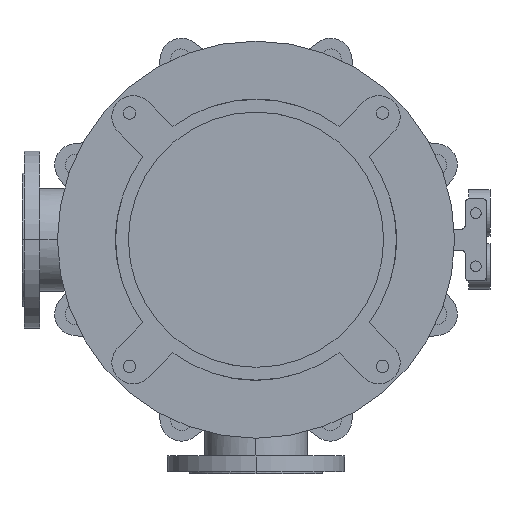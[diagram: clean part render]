
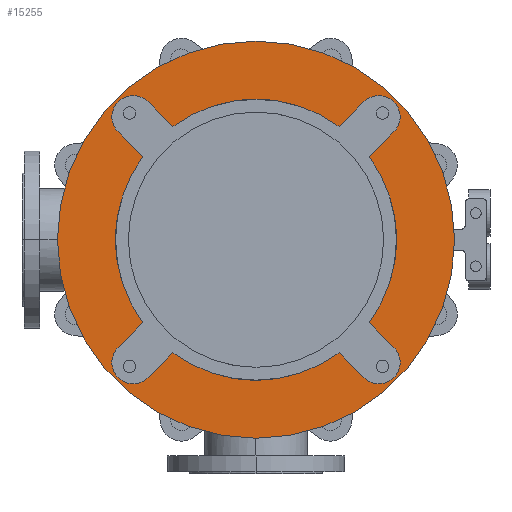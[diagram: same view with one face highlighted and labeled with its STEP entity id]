
A CAD part, front view. The second image highlights one B-rep face of the part: STEP entity #15255.
In plain terms, the highlighted planar face has unit normal (0, -1, 0).
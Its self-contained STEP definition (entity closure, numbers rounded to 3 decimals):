
#4256=CARTESIAN_POINT('',(0.,-25.,0.));
#4257=DIRECTION('',(0.,1.,0.));
#4258=DIRECTION('',(0.592,0.,-0.806));
#4259=AXIS2_PLACEMENT_3D('',#4256,#4257,#4258);
#4274=CARTESIAN_POINT('',(0.,-25.,0.));
#4275=DIRECTION('',(0.,1.,0.));
#4276=DIRECTION('',(0.806,0.,0.592));
#4277=AXIS2_PLACEMENT_3D('',#4274,#4275,#4276);
#4301=CARTESIAN_POINT('',(0.,-25.,0.));
#4302=DIRECTION('',(0.,1.,0.));
#4303=DIRECTION('',(-0.806,0.,-0.592));
#4304=AXIS2_PLACEMENT_3D('',#4301,#4302,#4303);
#4310=CARTESIAN_POINT('',(0.,-25.,0.));
#4311=DIRECTION('',(0.,1.,0.));
#4312=DIRECTION('',(-0.592,0.,0.806));
#4313=AXIS2_PLACEMENT_3D('',#4310,#4311,#4312);
#4488=CARTESIAN_POINT('',(0.,-25.,0.));
#4489=DIRECTION('',(0.,-1.,0.));
#4490=DIRECTION('',(-1.,0.,0.));
#4491=AXIS2_PLACEMENT_3D('',#4488,#4489,#4490);
#4493=CARTESIAN_POINT('',(0.,-25.,0.));
#4494=DIRECTION('',(0.,1.,0.));
#4495=DIRECTION('',(-1.,0.,0.));
#4496=AXIS2_PLACEMENT_3D('',#4493,#4494,#4495);
#4498=CARTESIAN_POINT('',(-173.241,-25.,173.241));
#4499=DIRECTION('',(0.,-1.,0.));
#4500=DIRECTION('',(0.707,0.,0.707));
#4501=AXIS2_PLACEMENT_3D('',#4498,#4499,#4500);
#4503=DIRECTION('',(0.707,0.,-0.707));
#4504=VECTOR('',#4503,49.286);
#4505=CARTESIAN_POINT('',(-194.454,-25.,152.028));
#4506=LINE('',#4505,#4504);
#4507=DIRECTION('',(-0.707,0.,-0.707));
#4508=VECTOR('',#4507,49.286);
#4509=CARTESIAN_POINT('',(-159.604,-25.,-117.178));
#4510=LINE('',#4509,#4508);
#4511=CARTESIAN_POINT('',(-173.241,-25.,-173.241));
#4512=DIRECTION('',(0.,-1.,0.));
#4513=DIRECTION('',(-0.707,0.,0.707));
#4514=AXIS2_PLACEMENT_3D('',#4511,#4512,#4513);
#4516=DIRECTION('',(0.707,0.,0.707));
#4517=VECTOR('',#4516,49.286);
#4518=CARTESIAN_POINT('',(-152.028,-25.,-194.454));
#4519=LINE('',#4518,#4517);
#4520=DIRECTION('',(0.707,0.,-0.707));
#4521=VECTOR('',#4520,49.286);
#4522=CARTESIAN_POINT('',(117.178,-25.,-159.604));
#4523=LINE('',#4522,#4521);
#4524=CARTESIAN_POINT('',(173.241,-25.,-173.241));
#4525=DIRECTION('',(0.,-1.,0.));
#4526=DIRECTION('',(-0.707,0.,-0.707));
#4527=AXIS2_PLACEMENT_3D('',#4524,#4525,#4526);
#4529=DIRECTION('',(-0.707,0.,0.707));
#4530=VECTOR('',#4529,49.286);
#4531=CARTESIAN_POINT('',(194.454,-25.,-152.028));
#4532=LINE('',#4531,#4530);
#4533=DIRECTION('',(0.707,0.,0.707));
#4534=VECTOR('',#4533,49.286);
#4535=CARTESIAN_POINT('',(159.604,-25.,117.178));
#4536=LINE('',#4535,#4534);
#4537=CARTESIAN_POINT('',(173.241,-25.,173.241));
#4538=DIRECTION('',(0.,-1.,0.));
#4539=DIRECTION('',(0.707,0.,-0.707));
#4540=AXIS2_PLACEMENT_3D('',#4537,#4538,#4539);
#4542=DIRECTION('',(-0.707,0.,-0.707));
#4543=VECTOR('',#4542,49.286);
#4544=CARTESIAN_POINT('',(152.028,-25.,194.454));
#4545=LINE('',#4544,#4543);
#4546=DIRECTION('',(-0.707,0.,0.707));
#4547=VECTOR('',#4546,49.286);
#4548=CARTESIAN_POINT('',(-117.178,-25.,159.604));
#4549=LINE('',#4548,#4547);
#8321=CARTESIAN_POINT('',(-280.,-25.,0.));
#8322=CARTESIAN_POINT('',(280.,-25.,0.));
#8323=VERTEX_POINT('',#8321);
#8324=VERTEX_POINT('',#8322);
#8345=CARTESIAN_POINT('',(-194.454,-25.,-152.028));
#8346=CARTESIAN_POINT('',(-152.028,-25.,-194.454));
#8347=VERTEX_POINT('',#8345);
#8348=VERTEX_POINT('',#8346);
#8349=CARTESIAN_POINT('',(-117.178,-25.,-159.604));
#8350=VERTEX_POINT('',#8349);
#8351=CARTESIAN_POINT('',(-159.604,-25.,-117.178));
#8352=VERTEX_POINT('',#8351);
#8361=CARTESIAN_POINT('',(152.028,-25.,-194.454));
#8362=CARTESIAN_POINT('',(194.454,-25.,-152.028));
#8363=VERTEX_POINT('',#8361);
#8364=VERTEX_POINT('',#8362);
#8365=CARTESIAN_POINT('',(159.604,-25.,-117.178));
#8366=VERTEX_POINT('',#8365);
#8367=CARTESIAN_POINT('',(117.178,-25.,-159.604));
#8368=VERTEX_POINT('',#8367);
#8377=CARTESIAN_POINT('',(194.454,-25.,152.028));
#8378=CARTESIAN_POINT('',(152.028,-25.,194.454));
#8379=VERTEX_POINT('',#8377);
#8380=VERTEX_POINT('',#8378);
#8381=CARTESIAN_POINT('',(117.178,-25.,159.604));
#8382=VERTEX_POINT('',#8381);
#8383=CARTESIAN_POINT('',(159.604,-25.,117.178));
#8384=VERTEX_POINT('',#8383);
#8393=CARTESIAN_POINT('',(-152.028,-25.,194.454));
#8394=CARTESIAN_POINT('',(-194.454,-25.,152.028));
#8395=VERTEX_POINT('',#8393);
#8396=VERTEX_POINT('',#8394);
#8397=CARTESIAN_POINT('',(-159.604,-25.,117.178));
#8398=VERTEX_POINT('',#8397);
#8399=CARTESIAN_POINT('',(-117.178,-25.,159.604));
#8400=VERTEX_POINT('',#8399);
#15215=CARTESIAN_POINT('',(0.,-25.,0.));
#15216=DIRECTION('',(0.,-1.,0.));
#15217=DIRECTION('',(-1.,0.,0.));
#15218=AXIS2_PLACEMENT_3D('',#15215,#15216,#15217);
#15219=PLANE('',#15218);
#15221=ORIENTED_EDGE('',*,*,#15220,.F.);
#15223=ORIENTED_EDGE('',*,*,#15222,.T.);
#15224=EDGE_LOOP('',(#15221,#15223));
#15225=FACE_OUTER_BOUND('',#15224,.F.);
#15227=ORIENTED_EDGE('',*,*,#15226,.T.);
#15229=ORIENTED_EDGE('',*,*,#15228,.T.);
#15230=ORIENTED_EDGE('',*,*,#15168,.F.);
#15232=ORIENTED_EDGE('',*,*,#15231,.T.);
#15234=ORIENTED_EDGE('',*,*,#15233,.T.);
#15236=ORIENTED_EDGE('',*,*,#15235,.T.);
#15237=ORIENTED_EDGE('',*,*,#15121,.F.);
#15238=ORIENTED_EDGE('',*,*,#15205,.T.);
#15240=ORIENTED_EDGE('',*,*,#15239,.T.);
#15242=ORIENTED_EDGE('',*,*,#15241,.T.);
#15243=ORIENTED_EDGE('',*,*,#15142,.F.);
#15245=ORIENTED_EDGE('',*,*,#15244,.T.);
#15247=ORIENTED_EDGE('',*,*,#15246,.T.);
#15249=ORIENTED_EDGE('',*,*,#15248,.T.);
#15250=ORIENTED_EDGE('',*,*,#15186,.F.);
#15252=ORIENTED_EDGE('',*,*,#15251,.T.);
#15253=EDGE_LOOP('',(#15227,#15229,#15230,#15232,#15234,#15236,#15237,#15238,
#15240,#15242,#15243,#15245,#15247,#15249,#15250,#15252));
#15254=FACE_BOUND('',#15253,.F.);
#15255=ADVANCED_FACE('',(#15225,#15254),#15219,.T.);
#4260=CIRCLE('',#4259,198.);
#4278=CIRCLE('',#4277,198.);
#4305=CIRCLE('',#4304,198.);
#4314=CIRCLE('',#4313,198.);
#4492=CIRCLE('',#4491,280.);
#4497=CIRCLE('',#4496,280.);
#4502=CIRCLE('',#4501,30.);
#4515=CIRCLE('',#4514,30.);
#4528=CIRCLE('',#4527,30.);
#4541=CIRCLE('',#4540,30.);
#15121=EDGE_CURVE('',#8368,#8350,#4260,.T.);
#15142=EDGE_CURVE('',#8384,#8366,#4278,.T.);
#15168=EDGE_CURVE('',#8352,#8398,#4305,.T.);
#15186=EDGE_CURVE('',#8400,#8382,#4314,.T.);
#15205=EDGE_CURVE('',#8368,#8363,#4523,.T.);
#15220=EDGE_CURVE('',#8323,#8324,#4492,.T.);
#15222=EDGE_CURVE('',#8323,#8324,#4497,.T.);
#15226=EDGE_CURVE('',#8395,#8396,#4502,.T.);
#15228=EDGE_CURVE('',#8396,#8398,#4506,.T.);
#15231=EDGE_CURVE('',#8352,#8347,#4510,.T.);
#15233=EDGE_CURVE('',#8347,#8348,#4515,.T.);
#15235=EDGE_CURVE('',#8348,#8350,#4519,.T.);
#15239=EDGE_CURVE('',#8363,#8364,#4528,.T.);
#15241=EDGE_CURVE('',#8364,#8366,#4532,.T.);
#15244=EDGE_CURVE('',#8384,#8379,#4536,.T.);
#15246=EDGE_CURVE('',#8379,#8380,#4541,.T.);
#15248=EDGE_CURVE('',#8380,#8382,#4545,.T.);
#15251=EDGE_CURVE('',#8400,#8395,#4549,.T.);
